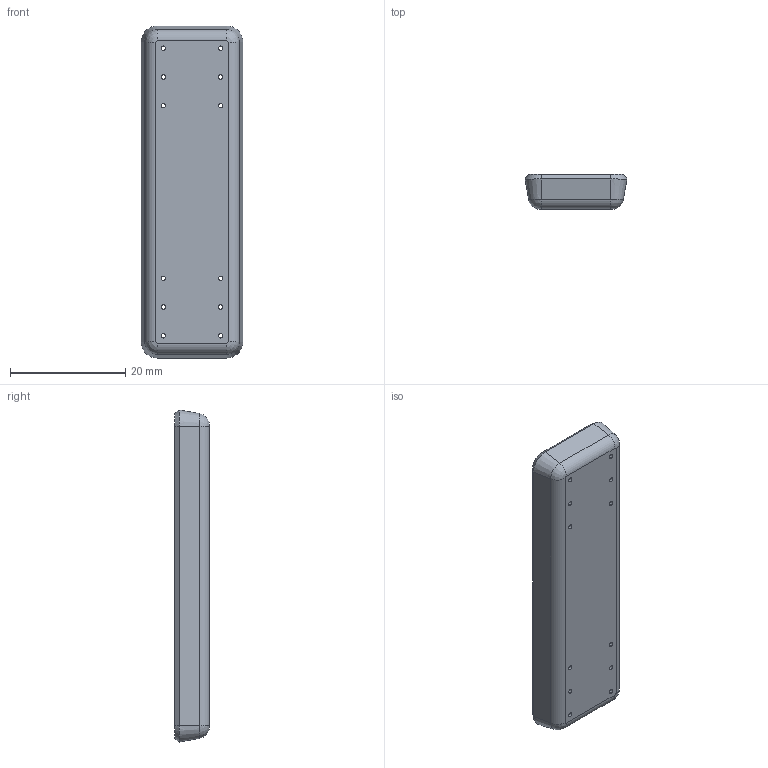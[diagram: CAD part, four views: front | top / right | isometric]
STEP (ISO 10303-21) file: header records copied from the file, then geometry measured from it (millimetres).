
FILE_DESCRIPTION(('FreeCAD Model'),'2;1');
FILE_NAME('D:/2015 new/openBCI/M3 Cad/M3K parts/Board Holder_Mount.STEP' ,'2015-11-05T13:35:40',('FreeCAD'),('FreeCAD'), 'Open CASCADE STEP processor 6.3','FreeCAD','Unknown');
FILE_SCHEMA(('AUTOMOTIVE_DESIGN_CC2 { 1 2 10303 214 -1 1 5 4 }'));
Length unit declared in the file: millimetre
Products named in the file (1): Board_Holder_Mount
Bounding box: 17.72 x 6 x 57.72 mm (x, y, z)
Volume: 5540.4 mm3; surface area: 2894.6 mm2
Topology: 1 solids, 1 shells, 50 faces, 128 edges, 80 vertices
Faces by surface type: cone 32, plane 10, revolution 4, cylinder 4
Entity records: 4593 total; most frequent: CARTESIAN_POINT 2315, DIRECTION 342, ORIENTED_EDGE 256, PCURVE 256, DEFINITIONAL_REPRESENTATION 256, B_SPLINE_CURVE_WITH_KNOTS 164, EDGE_CURVE 128, SURFACE_CURVE 128
